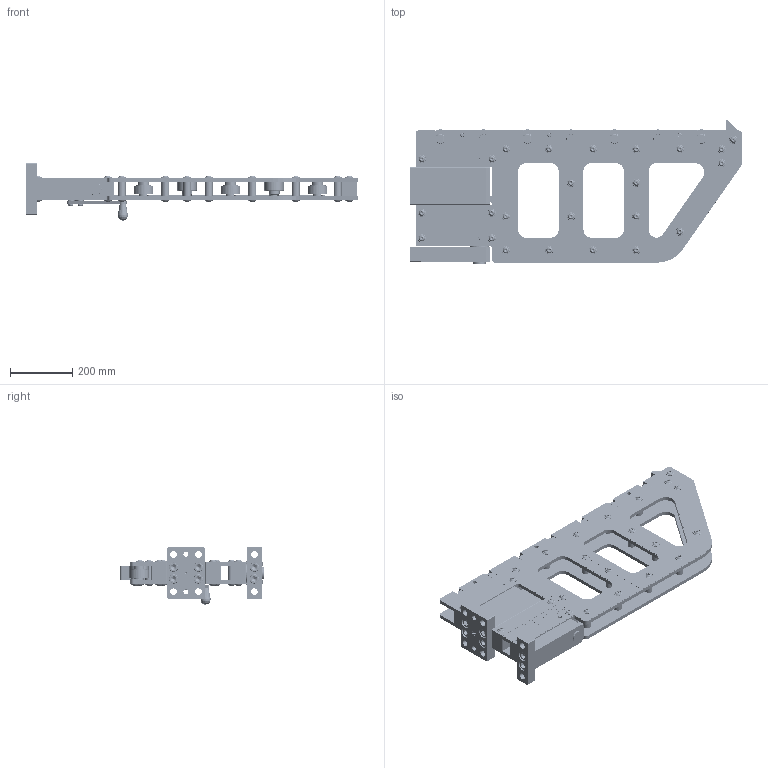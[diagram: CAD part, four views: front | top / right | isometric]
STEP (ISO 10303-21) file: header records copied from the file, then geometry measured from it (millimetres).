
FILE_DESCRIPTION(/* description */ ('CONSOLE PLATE RIGHT'),/* implementation_level */ '2;1');
FILE_NAME(/* name */ 'C:\Users\jaccow\AppData\Local\Temp\Cadac\NetworkPub\step\FB737-950.iam.stp',/* time_stamp */ '2017-12-14T13:53:01+01:00',/* author */ ('yue'),/* organization */ (''),/* preprocessor_version */ 'ST-DEVELOPER v16.1',/* originating_system */ 'Autodesk Inventor 2016',/* authorisation */ '');
FILE_SCHEMA (('AUTOMOTIVE_DESIGN { 1 0 10303 214 3 1 1 }'));
Products named in the file (40): FB741-101; FB698-186; CCE1230-028-9A; FB838-690; FB710-690; FB704-044; FB701-104; FB735-104; EU120147-109; FB742-101; DQ1533-120; CAE1120-1081A; FB881-026; FB882-026; FB834-298; FB739-950; FB646-101; FB837-690; CCA2031-0281A; FB647-070; PP0327-070; CAA1635-0612C; PP0329-155; PP0137-155; CBA1025-0281B; FB649-061; PP0140-110; PP0305-108; PP0379-130; PP0380-108; FB650-950; PP0310-071; FB705-104; CCA819-0285C; FB707-101; FB713-690; CCA2033-0281A; FB712-950; FB709-104; FB737-950
Assembly tree (142 placements, depth 3):
  FB737-950
    FB739-950
      FB741-101  x2
      FB698-186  x17
      CCE1230-028-9A  x51
      FB838-690
      FB710-690  x2
      FB704-044
      FB701-104  x7
      FB735-104  x7
      EU120147-109  x7
      FB742-101
      DQ1533-120  x3
      CAE1120-1081A  x3
      FB881-026
      FB882-026
      FB834-298
    FB650-950
      FB646-101
      FB837-690
      CCA2031-0281A  x4
      FB647-070
      PP0327-070
      CAA1635-0612C
      PP0329-155  x2
      PP0137-155
      CBA1025-0281B
      FB649-061
      PP0140-110
      PP0305-108  x2
      PP0379-130  x2
      PP0380-108  x2
    PP0310-071  x2
    FB705-104
    CCA819-0285C  x4
    FB712-950
      FB707-101
      FB713-690
      CCA2033-0281A  x2
      PP0329-155
    FB709-104
Bounding box: 1068 x 461.67 x 184 mm (x, y, z)
Volume: 13546193.5 mm3; surface area: 3004289.3 mm2
Topology: 169 solids, 169 shells, 5395 faces, 12831 edges, 8306 vertices
Faces by surface type: plane 2868, bspline 1094, cylinder 625, cone 607, torus 200, sphere 1
Full cylindrical faces by diameter (mm): 1.875 x7, 3 x2, 4.2 x7, 6.466 x2, 6.647 x6, 6.648 x1, 8 x6, 8.376 x1, 8.4 x1, 9.42 x2, 10 x9, 10.1 x1, 10.106 x24, 10.5 x5, 11.5 x2, 12 x54, 13 x3, 13.5 x43, 14 x2, 15 x1, 16 x4, 16.1 x3, 17.294 x6, 19.95 x7, 20 x27, 20.1 x1, 21 x4, 21.5 x12, 22.425 x1, 24 x3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
Entity records: 108950 total; most frequent: CARTESIAN_POINT 33460, ORIENTED_EDGE 16538, DIRECTION 11937, EDGE_CURVE 8260, VERTEX_POINT 5637, LINE 5551, VECTOR 5551, EDGE_LOOP 4090
